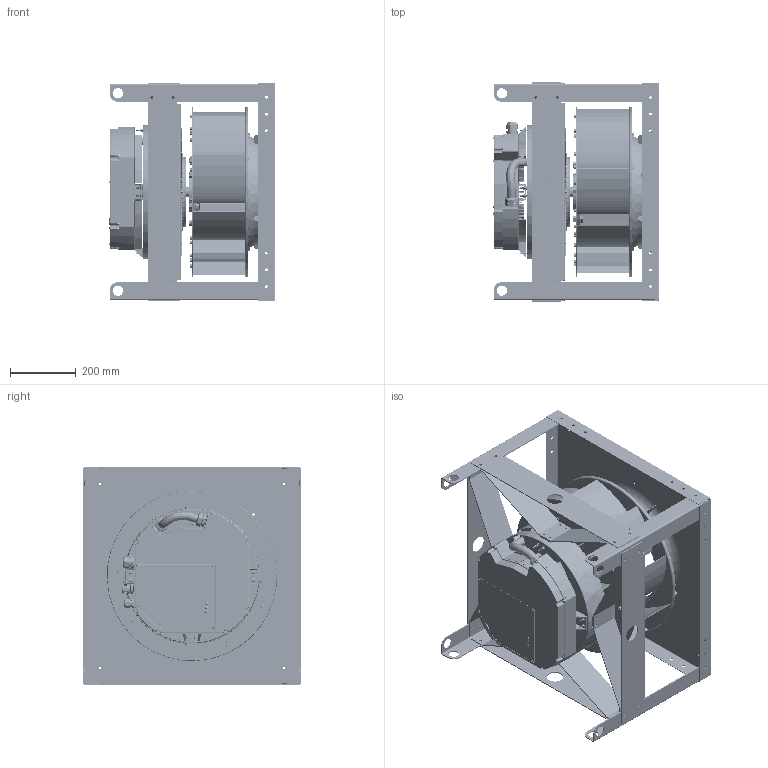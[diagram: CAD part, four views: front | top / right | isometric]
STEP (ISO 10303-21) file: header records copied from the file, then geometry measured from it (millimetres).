
FILE_DESCRIPTION (( 'STEP AP214' ), '1' );
FILE_NAME ('655771.STEP', '2026-06-10T14:55:05', ( '' ), ( '' ), 'SwSTEP 2.0', 'SolidWorks 2023', '' );
FILE_SCHEMA (( 'AUTOMOTIVE_DESIGN' ));
Length unit declared in the file: inch
Products named in the file (19): SXP20 BP_651398; 651593_651593; 941770_BUSHING  TB2012 X 1.125; 655771; SXPI STRAP_651579; 941156_941156; SXP20 BLADE_651395; SXP20 WHEEL WELDMENT_655575; SXP20 INLET_651415; 651591_651591; SXP20 WHEEL ASSY_655590; SXP20 FP_651397; 941153_941153; 941044_941044; SXP20 BAFFLE_651420; SXP20 INLET ASSY_655569; 651594_651594; 941768_941768; 925517CS_925517CS
Assembly tree (83 placements, depth 4):
  655771
    651591_651591
    SXP20 INLET ASSY_655569
      SXP20 INLET_651415
      SXP20 BAFFLE_651420  x4
    SXP20 WHEEL ASSY_655590
      SXP20 WHEEL WELDMENT_655575
        SXP20 FP_651397
        SXP20 BLADE_651395  x9
        SXP20 BP_651398
        941044_941044  x36
      941153_941153  x6
      941156_941156  x6
      941768_941768
    925517CS_925517CS
    651594_651594  x4
    941770_BUSHING  TB2012 X 1.125
    651593_651593  x4
    SXPI STRAP_651579  x4
Bounding box: 505.58 x 663.7 x 663.7 mm (x, y, z)
Volume: 6288488.3 mm3; surface area: 5532340.9 mm2
Topology: 79 solids, 301 shells, 7542 faces, 22523 edges, 15144 vertices
Faces by surface type: plane 2828, cylinder 1915, bspline 1552, cone 848, torus 394, sphere 5
Full cylindrical faces by diameter (mm): 2.9 x2, 3.962 x10, 4.762 x4, 4.763 x14, 5.105 x16, 6 x144, 6.35 x36, 7 x5, 7.137 x16, 7.544 x2, 7.937 x3, 7.938 x1, 8.5 x1, 8.738 x87, 9 x5, 9.525 x12, 9.73 x8, 10.1 x1, 10.2 x1, 11.8 x7, 12.5 x1, 12.6 x1, 13 x7, 13.208 x36, 14 x1, 14.097 x6, 17.462 x4, 19.05 x6, 20.32 x10, 20.637 x6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
Entity records: 317293 total; most frequent: CARTESIAN_POINT 213697, ORIENTED_EDGE 21049, DIRECTION 18509, EDGE_CURVE 12938, VERTEX_POINT 9130, AXIS2_PLACEMENT_3D 7319, EDGE_LOOP 5147, FACE_OUTER_BOUND 4442
